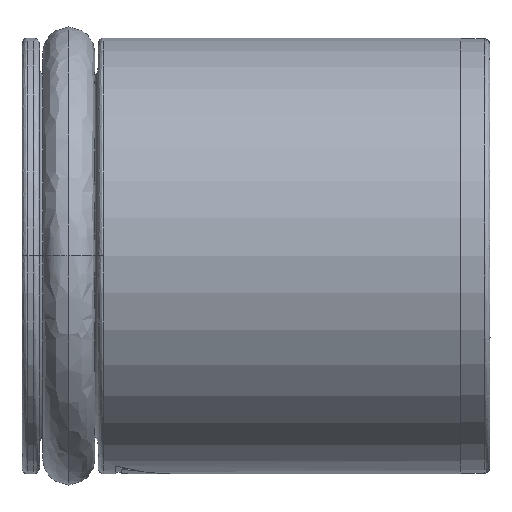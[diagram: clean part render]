
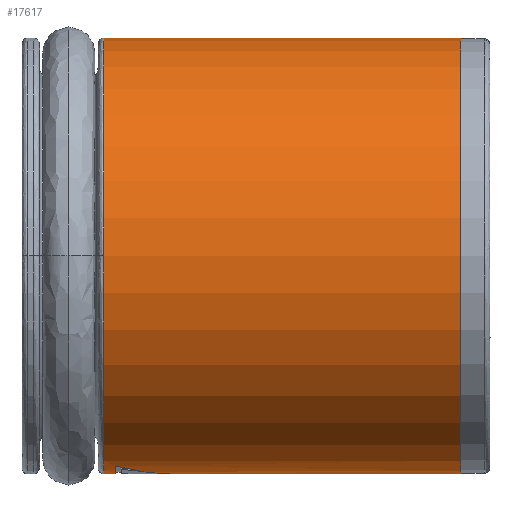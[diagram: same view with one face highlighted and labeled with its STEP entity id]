
A CAD part, top view. The second image highlights one B-rep face of the part: STEP entity #17617.
In plain terms, the highlighted cylindrical face has radius 7.45 mm (diameter 14.9 mm), a partial arc.
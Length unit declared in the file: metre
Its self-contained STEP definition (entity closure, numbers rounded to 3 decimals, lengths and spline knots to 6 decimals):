
#249 = DIRECTION ( 'NONE',  ( 0., -1., 0. ) ) ;
#959 = AXIS2_PLACEMENT_3D ( 'NONE', #17161, #7105, #8686 ) ;
#973 = EDGE_CURVE ( 'NONE', #19258, #7750, #9726, .T. ) ;
#976 = DIRECTION ( 'NONE',  ( -1., 0., 0. ) ) ;
#1482 = CARTESIAN_POINT ( 'NONE',  ( 0.004533, -0.00745, 0.000667 ) ) ;
#1537 = DIRECTION ( 'NONE',  ( 0., 0., 1. ) ) ;
#2352 = CARTESIAN_POINT ( 'NONE',  ( 0.0032, 0., 0. ) ) ;
#2660 = VECTOR ( 'NONE', #976, 1. ) ;
#2981 = VERTEX_POINT ( 'NONE', #19830 ) ;
#3186 = DIRECTION ( 'NONE',  ( -1., 0., 0. ) ) ;
#3372 = VECTOR ( 'NONE', #11463, 1. ) ;
#3586 = CARTESIAN_POINT ( 'NONE',  ( 0.0028, -0.00745, 0. ) ) ;
#3612 = EDGE_CURVE ( 'NONE', #18034, #5570, #9172, .T. ) ;
#3728 = DIRECTION ( 'NONE',  ( 0., 0., 1. ) ) ;
#4770 = CARTESIAN_POINT ( 'NONE',  ( 0.015, -0.00745, 0. ) ) ;
#5162 = EDGE_CURVE ( 'NONE', #2981, #19258, #20775, .T. ) ;
#5196 = DIRECTION ( 'NONE',  ( -1., 0., 0. ) ) ;
#5219 = ORIENTED_EDGE ( 'NONE', *, *, #10595, .T. ) ;
#5562 = CARTESIAN_POINT ( 'NONE',  ( 0.0028, 0., 0. ) ) ;
#5570 = VERTEX_POINT ( 'NONE', #9940 ) ;
#5692 = FACE_OUTER_BOUND ( 'NONE', #19393, .T. ) ;
#5773 = DIRECTION ( 'NONE',  ( 1., 0., 0. ) ) ;
#6180 = CIRCLE ( 'NONE', #13329, 0.00745 ) ;
#6531 = CARTESIAN_POINT ( 'NONE',  ( 0.0052, -0.00745, 0. ) ) ;
#6644 = EDGE_CURVE ( 'NONE', #11674, #13416, #6180, .T. ) ;
#6741 = CARTESIAN_POINT ( 'NONE',  ( 0.0028, 0., 0.00745 ) ) ;
#6817 = ORIENTED_EDGE ( 'NONE', *, *, #3612, .F. ) ;
#7105 = DIRECTION ( 'NONE',  ( 1., 0., 0. ) ) ;
#7473 = ORIENTED_EDGE ( 'NONE', *, *, #14441, .F. ) ;
#7750 = VERTEX_POINT ( 'NONE', #6531 ) ;
#8061 = CARTESIAN_POINT ( 'NONE',  ( 0.015, -0.00745, 0. ) ) ;
#8310 = CARTESIAN_POINT ( 'NONE',  ( 0.0032, -0.007183, 0.001976 ) ) ;
#8686 = DIRECTION ( 'NONE',  ( 0., -1., 0. ) ) ;
#8724 = ORIENTED_EDGE ( 'NONE', *, *, #973, .F. ) ;
#8913 = ORIENTED_EDGE ( 'NONE', *, *, #16234, .F. ) ;
#9172 = CIRCLE ( 'NONE', #20179, 0.00745 ) ;
#9357 = AXIS2_PLACEMENT_3D ( 'NONE', #5562, #20753, #3728 ) ;
#9726 = LINE ( 'NONE', #8061, #3372 ) ;
#9890 = CARTESIAN_POINT ( 'NONE',  ( 0.0028, 0.00745, 0. ) ) ;
#9940 = CARTESIAN_POINT ( 'NONE',  ( 0.0032, -0.00745, 0. ) ) ;
#10085 = CARTESIAN_POINT ( 'NONE',  ( 0.003867, -0.00736, 0.001333 ) ) ;
#10432 = DIRECTION ( 'NONE',  ( -1., 0., 0. ) ) ;
#10595 = EDGE_CURVE ( 'NONE', #2981, #14897, #19606, .T. ) ;
#11463 = DIRECTION ( 'NONE',  ( -1., 0., 0. ) ) ;
#11674 = VERTEX_POINT ( 'NONE', #3586 ) ;
#12355 = B_SPLINE_CURVE_WITH_KNOTS ( 'NONE', 3,
 ( #18511, #1482, #10085, #8310 ),
 .UNSPECIFIED., .F., .F.,
 ( 4, 4 ),
 ( 0., 0.002829 ),
 .UNSPECIFIED. ) ;
#13329 = AXIS2_PLACEMENT_3D ( 'NONE', #20130, #3186, #1537 ) ;
#13416 = VERTEX_POINT ( 'NONE', #6741 ) ;
#13991 = LINE ( 'NONE', #20530, #15076 ) ;
#14441 = EDGE_CURVE ( 'NONE', #5570, #11674, #13991, .T. ) ;
#14897 = VERTEX_POINT ( 'NONE', #9890 ) ;
#15076 = VECTOR ( 'NONE', #5196, 1. ) ;
#16234 = EDGE_CURVE ( 'NONE', #7750, #18034, #12355, .T. ) ;
#16816 = AXIS2_PLACEMENT_3D ( 'NONE', #18975, #10432, #249 ) ;
#17161 = CARTESIAN_POINT ( 'NONE',  ( 0.015, 0., 0. ) ) ;
#17613 = DIRECTION ( 'NONE',  ( 0., -1., 0. ) ) ;
#17617 = ADVANCED_FACE ( 'NONE', ( #5692 ), #20290, .T. ) ;
#18034 = VERTEX_POINT ( 'NONE', #19100 ) ;
#18511 = CARTESIAN_POINT ( 'NONE',  ( 0.0052, -0.00745, 0. ) ) ;
#18975 = CARTESIAN_POINT ( 'NONE',  ( 0.015, 0., 0. ) ) ;
#19083 = ORIENTED_EDGE ( 'NONE', *, *, #5162, .F. ) ;
#19100 = CARTESIAN_POINT ( 'NONE',  ( 0.0032, -0.007183, 0.001976 ) ) ;
#19258 = VERTEX_POINT ( 'NONE', #4770 ) ;
#19393 = EDGE_LOOP ( 'NONE', ( #19083, #5219, #19999, #21191, #7473, #6817, #8913, #8724 ) ) ;
#19606 = LINE ( 'NONE', #21109, #2660 ) ;
#19830 = CARTESIAN_POINT ( 'NONE',  ( 0.015, 0.00745, 0. ) ) ;
#19999 = ORIENTED_EDGE ( 'NONE', *, *, #20750, .F. ) ;
#20130 = CARTESIAN_POINT ( 'NONE',  ( 0.0028, 0., 0. ) ) ;
#20179 = AXIS2_PLACEMENT_3D ( 'NONE', #2352, #5773, #17613 ) ;
#20290 = CYLINDRICAL_SURFACE ( 'NONE', #16816, 0.00745 ) ;
#20530 = CARTESIAN_POINT ( 'NONE',  ( 0.015, -0.00745, 0. ) ) ;
#20667 = CIRCLE ( 'NONE', #9357, 0.00745 ) ;
#20750 = EDGE_CURVE ( 'NONE', #13416, #14897, #20667, .T. ) ;
#20753 = DIRECTION ( 'NONE',  ( -1., 0., 0. ) ) ;
#20775 = CIRCLE ( 'NONE', #959, 0.00745 ) ;
#21109 = CARTESIAN_POINT ( 'NONE',  ( 0.015, 0.00745, 0. ) ) ;
#21191 = ORIENTED_EDGE ( 'NONE', *, *, #6644, .F. ) ;
